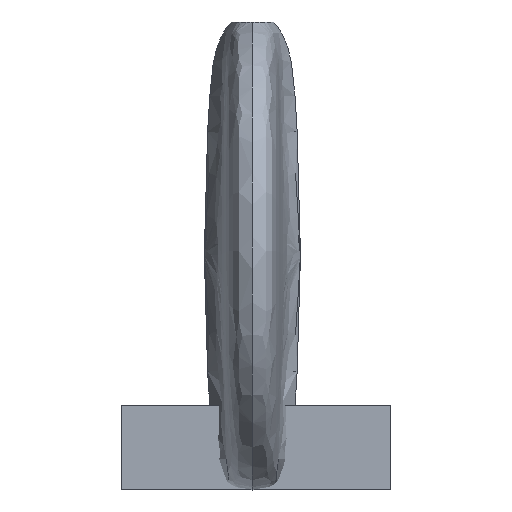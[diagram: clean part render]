
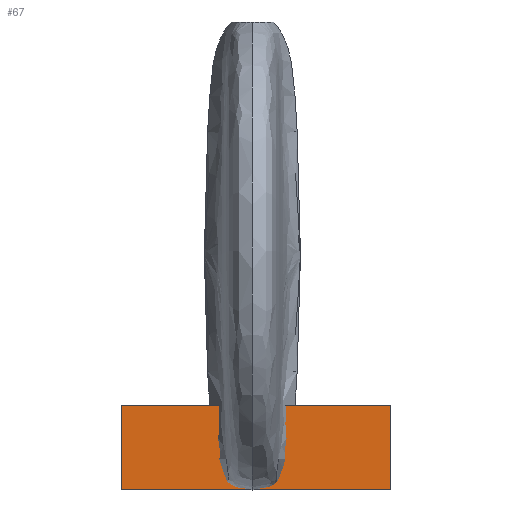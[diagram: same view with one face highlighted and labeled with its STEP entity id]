
A CAD part, left-side view. The second image highlights one B-rep face of the part: STEP entity #67.
In plain terms, the highlighted planar face has unit normal (-1, 0, 0).
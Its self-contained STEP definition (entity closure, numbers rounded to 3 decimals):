
#67=ADVANCED_FACE('',(#109),#621,.T.);
#109=FACE_OUTER_BOUND('',#151,.T.);
#151=EDGE_LOOP('',(#205,#206,#207,#208));
#205=ORIENTED_EDGE('',*,*,#383,.F.);
#206=ORIENTED_EDGE('',*,*,#380,.F.);
#207=ORIENTED_EDGE('',*,*,#377,.F.);
#208=ORIENTED_EDGE('',*,*,#373,.F.);
#373=EDGE_CURVE('',#557,#558,#465,.T.);
#377=EDGE_CURVE('',#558,#561,#469,.T.);
#380=EDGE_CURVE('',#561,#563,#472,.T.);
#383=EDGE_CURVE('',#563,#557,#475,.T.);
#465=B_SPLINE_CURVE_WITH_KNOTS('',1,(#675,#676),.UNSPECIFIED.,.F.,.F.,(2,
2),(0.,36.565),.UNSPECIFIED.);
#469=B_SPLINE_CURVE_WITH_KNOTS('',1,(#683,#684),.UNSPECIFIED.,.F.,.F.,(2,
2),(36.565,399.356),.UNSPECIFIED.);
#472=B_SPLINE_CURVE_WITH_KNOTS('',1,(#689,#690),.UNSPECIFIED.,.F.,.F.,(2,
2),(399.356,435.921),.UNSPECIFIED.);
#475=B_SPLINE_CURVE_WITH_KNOTS('',1,(#695,#696),.UNSPECIFIED.,.F.,.F.,(2,
2),(435.921,798.712),.UNSPECIFIED.);
#557=VERTEX_POINT('',#667);
#558=VERTEX_POINT('',#668);
#561=VERTEX_POINT('',#671);
#563=VERTEX_POINT('',#673);
#621=PLANE('',#647);
#647=AXIS2_PLACEMENT_3D('',#665,#656,$);
#656=DIRECTION('',(-1.,0.,0.));
#665=CARTESIAN_POINT('',(16498.96,-1987.265,0.));
#667=CARTESIAN_POINT('',(16498.96,-1987.265,0.));
#668=CARTESIAN_POINT('',(16498.96,-1987.265,81.199));
#671=CARTESIAN_POINT('',(16498.96,-2246.205,81.199));
#673=CARTESIAN_POINT('',(16498.96,-2246.205,0.));
#675=CARTESIAN_POINT('',(16498.96,-1987.265,0.));
#676=CARTESIAN_POINT('',(16498.96,-1987.265,81.199));
#683=CARTESIAN_POINT('',(16498.96,-1987.265,81.199));
#684=CARTESIAN_POINT('',(16498.96,-2246.205,81.199));
#689=CARTESIAN_POINT('',(16498.96,-2246.205,81.199));
#690=CARTESIAN_POINT('',(16498.96,-2246.205,0.));
#695=CARTESIAN_POINT('',(16498.96,-2246.205,0.));
#696=CARTESIAN_POINT('',(16498.96,-1987.265,0.));
